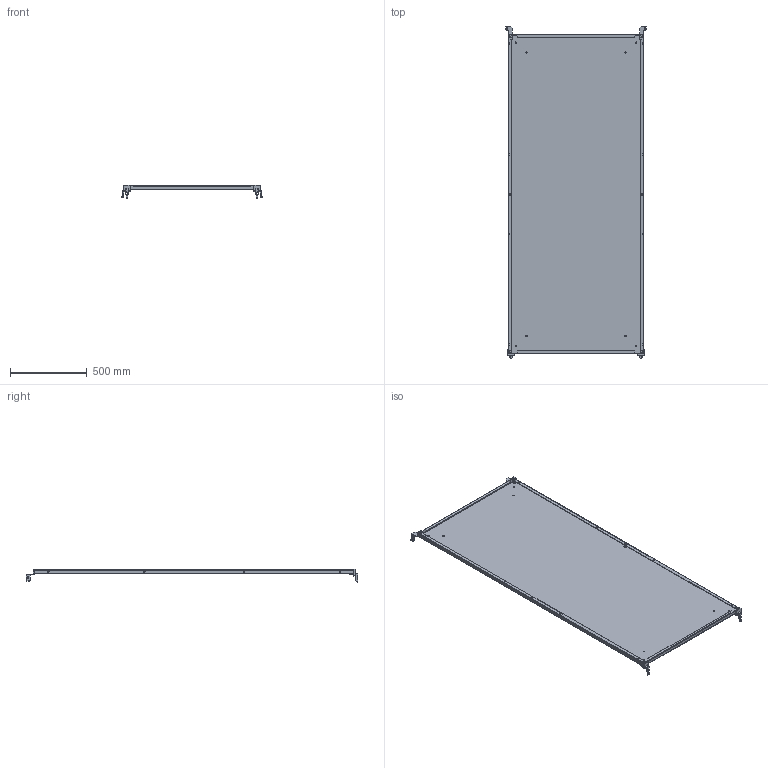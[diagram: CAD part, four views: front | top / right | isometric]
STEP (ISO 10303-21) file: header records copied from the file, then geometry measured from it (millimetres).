
FILE_DESCRIPTION (( 'STEP AP203' ), '1' );
FILE_NAME ('EUPA-100220.STEP', '2017-05-12T13:35:04', ( '' ), ( '' ), 'SwSTEP 2.0', 'SolidWorks 2017', '' );
FILE_SCHEMA (( 'CONFIG_CONTROL_DESIGN' ));
Length unit declared in the file: millimetre
Products named in the file (1): EUPA-100220
Bounding box: 916.2 x 2162.82 x 90.92 mm (x, y, z)
Volume: 6307152 mm3; surface area: 4207476.4 mm2
Topology: 1 solids, 1 shells, 328 faces, 918 edges, 598 vertices
Faces by surface type: plane 204, cylinder 118, bspline 6
Entity records: 10893 total; most frequent: CARTESIAN_POINT 2079, ORIENTED_EDGE 1836, DIRECTION 1788, EDGE_CURVE 918, VECTOR 646, LINE 646, VERTEX_POINT 598, AXIS2_PLACEMENT_3D 571
